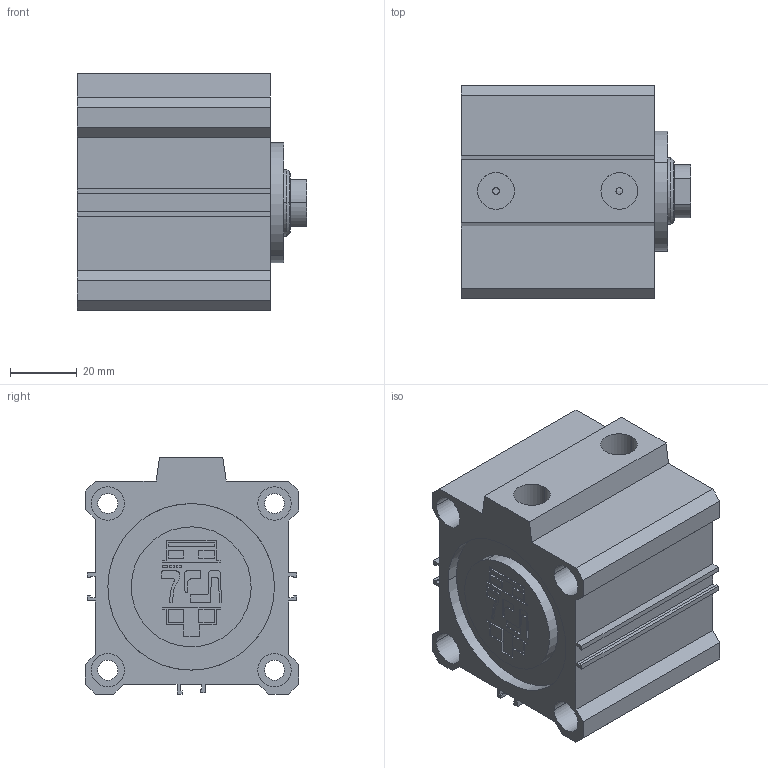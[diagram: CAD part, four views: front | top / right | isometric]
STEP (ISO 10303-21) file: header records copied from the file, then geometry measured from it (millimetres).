
FILE_DESCRIPTION(('CATIA V5 STEP Exchange'),'2;1');
FILE_NAME('D:\PDA\PDA-STP\PDA 50-20\PDA 50-20-20.stp','2016-02-02T10:48:24+00:00',('none'),('none'),'Version 5-6 Release 2012','CATIA V5 STEP AP203','none');
FILE_SCHEMA(('CONFIG_CONTROL_DESIGN'));
Length unit declared in the file: millimetre
Products named in the file (1): PDA 50-20-20-00
Assembly tree (2 placements, depth 2):
  PDA 50-20-20-00
    #58
    #6574
Bounding box: 69 x 64 x 71 mm (x, y, z)
Volume: 173367.7 mm3; surface area: 53541.8 mm2
Topology: 2 solids, 2 shells, 248 faces, 640 edges, 428 vertices
Faces by surface type: plane 172, cylinder 72, cone 2, torus 2
Entity records: 7094 total; most frequent: ORIENTED_EDGE 1280, CARTESIAN_POINT 1265, DIRECTION 966, EDGE_CURVE 640, VECTOR 482, LINE 482, VERTEX_POINT 428, AXIS2_PLACEMENT_3D 319
